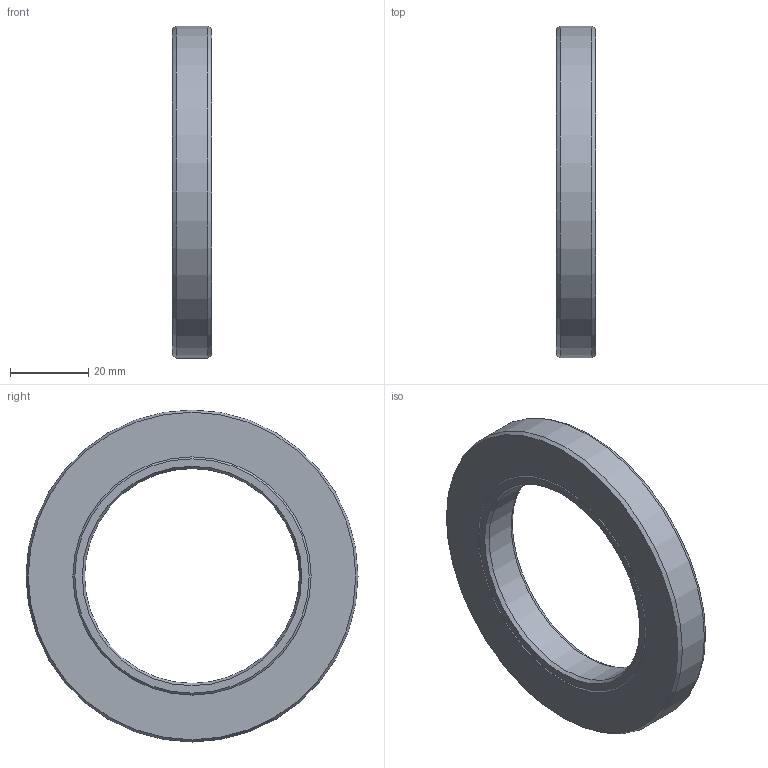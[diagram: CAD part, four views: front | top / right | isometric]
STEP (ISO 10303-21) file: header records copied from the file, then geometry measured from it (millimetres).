
FILE_DESCRIPTION(/* description */ (''),/* implementation_level */ '2;1');
FILE_NAME(/* name */ '301888 SA 55x85x10.stp',/* time_stamp */ '2016-12-16T15:14:51+01:00',/* author */ (''),/* organization */ (''),/* preprocessor_version */ 'ST-DEVELOPER v15',/* originating_system */ 'SIEMENS PLM Software NX 8.5',/* authorisation */ '');
FILE_SCHEMA (('CONFIG_CONTROL_DESIGN'));
Length unit declared in the file: millimetre
Products named in the file (1): ATE0000144_01
Bounding box: 10 x 85 x 85 mm (x, y, z)
Volume: 31560.3 mm3; surface area: 15935.9 mm2
Topology: 2 solids, 2 shells, 18 faces, 37 edges, 23 vertices
Faces by surface type: cone 10, plane 5, cylinder 3
Full cylindrical faces by diameter (mm): 55 x1, 85 x1
Entity records: 492 total; most frequent: DIRECTION 76, CARTESIAN_POINT 74, ORIENTED_EDGE 46, AXIS2_PLACEMENT_3D 38, EDGE_LOOP 33, FACE_BOUND 30, EDGE_CURVE 23, VERTEX_POINT 20
